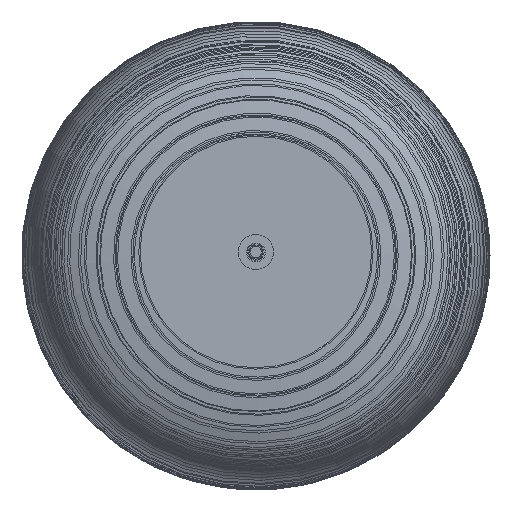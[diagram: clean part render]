
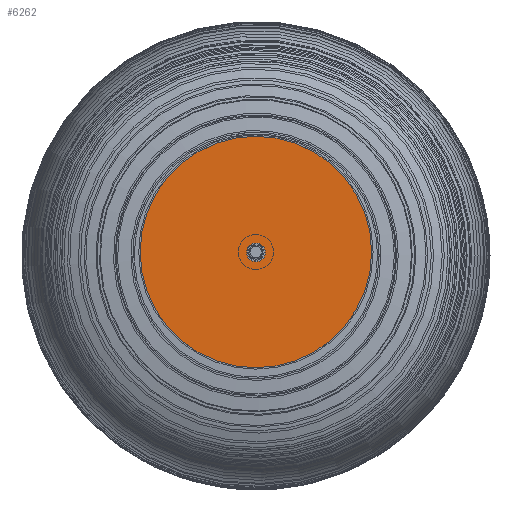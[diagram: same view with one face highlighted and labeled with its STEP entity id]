
A CAD part, top view. The second image highlights one B-rep face of the part: STEP entity #6262.
In plain terms, the highlighted planar face has unit normal (0, 0, 1).
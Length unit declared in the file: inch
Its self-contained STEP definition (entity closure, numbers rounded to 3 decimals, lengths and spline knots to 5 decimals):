
#1229=FACE_BOUND('',#1829,.T.);
#1447=FACE_OUTER_BOUND('',#1828,.T.);
#1828=EDGE_LOOP('',(#5155));
#1829=EDGE_LOOP('',(#5156));
#2341=CIRCLE('',#6990,0.2);
#2343=CIRCLE('',#6993,2.47);
#2765=VERTEX_POINT('',#13008);
#2767=VERTEX_POINT('',#13014);
#3606=EDGE_CURVE('',#2765,#2765,#2341,.T.);
#3609=EDGE_CURVE('',#2767,#2767,#2343,.F.);
#5155=ORIENTED_EDGE('',*,*,#3609,.T.);
#5156=ORIENTED_EDGE('',*,*,#3606,.T.);
#6029=PLANE('',#6995);
#6262=ADVANCED_FACE('',(#1447,#1229),#6029,.T.);
#6990=AXIS2_PLACEMENT_3D('',#13009,#8442,#8443);
#6993=AXIS2_PLACEMENT_3D('',#13015,#8449,#8450);
#6995=AXIS2_PLACEMENT_3D('',#13019,#8454,#8455);
#8442=DIRECTION('center_axis',(0.,0.,-1.));
#8443=DIRECTION('ref_axis',(1.,0.,0.));
#8449=DIRECTION('center_axis',(0.,0.,-1.));
#8450=DIRECTION('ref_axis',(1.,0.,0.));
#8454=DIRECTION('center_axis',(0.,0.,1.));
#8455=DIRECTION('ref_axis',(1.,0.,0.));
#13008=CARTESIAN_POINT('',(-0.19813,-0.00889,47.73));
#13009=CARTESIAN_POINT('Origin',(0.00187,-0.00889,
47.73));
#13014=CARTESIAN_POINT('',(-2.47,0.,47.73));
#13015=CARTESIAN_POINT('Origin',(0.,0.,47.73));
#13019=CARTESIAN_POINT('Origin',(0.,0.,47.73));
